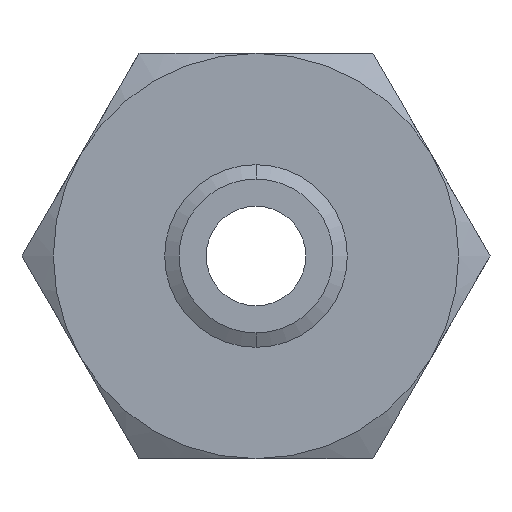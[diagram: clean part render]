
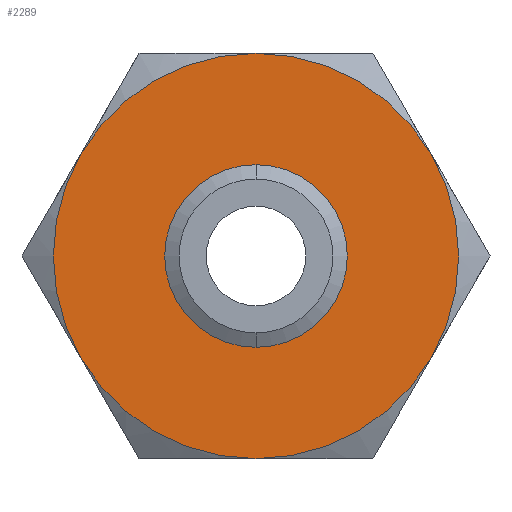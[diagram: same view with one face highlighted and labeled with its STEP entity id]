
A CAD part, front view. The second image highlights one B-rep face of the part: STEP entity #2289.
In plain terms, the highlighted planar face has unit normal (0, -1, 0).
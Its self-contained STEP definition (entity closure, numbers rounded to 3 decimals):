
#75 = VERTEX_POINT ( 'NONE', #421 ) ;
#80 = VERTEX_POINT ( 'NONE', #412 ) ;
#412 = CARTESIAN_POINT ( 'NONE',  ( 0., 0., -29.426 ) ) ;
#421 = CARTESIAN_POINT ( 'NONE',  ( 0., 0., 29.426 ) ) ;
#1132 = CARTESIAN_POINT ( 'NONE',  ( -67.117, 0., 38.75 ) ) ;
#1195 = DIRECTION ( 'NONE',  ( 0., 0., 1. ) ) ;
#1196 = DIRECTION ( 'NONE',  ( 0., 1., 0. ) ) ;
#1197 = CARTESIAN_POINT ( 'NONE',  ( 0., 0., 0. ) ) ;
#1198 = AXIS2_PLACEMENT_3D ( 'NONE', #1197, #1196, #1195 ) ;
#1199 = CIRCLE ( 'NONE', #1198, 77.5 ) ;
#1218 = CARTESIAN_POINT ( 'NONE',  ( 67.117, 0., 38.75 ) ) ;
#1222 = DIRECTION ( 'NONE',  ( 0., 0., 1. ) ) ;
#1223 = DIRECTION ( 'NONE',  ( 0., 1., 0. ) ) ;
#1224 = CARTESIAN_POINT ( 'NONE',  ( 0., 0., 0. ) ) ;
#1225 = AXIS2_PLACEMENT_3D ( 'NONE', #1224, #1223, #1222 ) ;
#1226 = CIRCLE ( 'NONE', #1225, 77.5 ) ;
#1258 = CIRCLE ( 'NONE', #1322, 29.426 ) ;
#1297 = CARTESIAN_POINT ( 'NONE',  ( 0., 0., -77.5 ) ) ;
#1298 = DIRECTION ( 'NONE',  ( 0., 0., 1. ) ) ;
#1299 = DIRECTION ( 'NONE',  ( 0., 1., 0. ) ) ;
#1300 = CARTESIAN_POINT ( 'NONE',  ( 0., 0., 0. ) ) ;
#1301 = AXIS2_PLACEMENT_3D ( 'NONE', #1300, #1299, #1298 ) ;
#1302 = CIRCLE ( 'NONE', #1301, 77.5 ) ;
#1303 = CARTESIAN_POINT ( 'NONE',  ( 67.117, 0., -38.75 ) ) ;
#1314 = DIRECTION ( 'NONE',  ( 0., 0., -1. ) ) ;
#1315 = DIRECTION ( 'NONE',  ( 0., -1., 0. ) ) ;
#1316 = CARTESIAN_POINT ( 'NONE',  ( 0., 0., 0. ) ) ;
#1317 = AXIS2_PLACEMENT_3D ( 'NONE', #1316, #1315, #1314 ) ;
#1318 = CIRCLE ( 'NONE', #1317, 29.426 ) ;
#1319 = DIRECTION ( 'NONE',  ( 0., 0., -1. ) ) ;
#1320 = DIRECTION ( 'NONE',  ( 0., -1., 0. ) ) ;
#1321 = CARTESIAN_POINT ( 'NONE',  ( 0., 0., 0. ) ) ;
#1322 = AXIS2_PLACEMENT_3D ( 'NONE', #1321, #1320, #1319 ) ;
#1326 = CARTESIAN_POINT ( 'NONE',  ( 0., 0., 0. ) ) ;
#1379 = DIRECTION ( 'NONE',  ( 0., 0., 1. ) ) ;
#1380 = DIRECTION ( 'NONE',  ( 0., 1., 0. ) ) ;
#1381 = AXIS2_PLACEMENT_3D ( 'NONE', #1326, #1380, #1379 ) ;
#1382 = CIRCLE ( 'NONE', #1381, 77.5 ) ;
#1538 = CARTESIAN_POINT ( 'NONE',  ( -67.117, 0., -38.75 ) ) ;
#1543 = DIRECTION ( 'NONE',  ( 0., 0., 1. ) ) ;
#1544 = DIRECTION ( 'NONE',  ( 0., 1., 0. ) ) ;
#1545 = CARTESIAN_POINT ( 'NONE',  ( 44.745, 0., -77.5 ) ) ;
#1546 = AXIS2_PLACEMENT_3D ( 'NONE', #1545, #1544, #1543 ) ;
#1547 = PLANE ( 'NONE',  #1546 ) ;
#1548 = FACE_BOUND ( 'NONE', #2115, .T. ) ;
#1549 = FACE_OUTER_BOUND ( 'NONE', #2265, .T. ) ;
#1560 = CARTESIAN_POINT ( 'NONE',  ( 0., 0., 77.5 ) ) ;
#1561 = DIRECTION ( 'NONE',  ( 0., 0., 1. ) ) ;
#1562 = DIRECTION ( 'NONE',  ( 0., 1., 0. ) ) ;
#1563 = CARTESIAN_POINT ( 'NONE',  ( 0., 0., 0. ) ) ;
#1564 = AXIS2_PLACEMENT_3D ( 'NONE', #1563, #1562, #1561 ) ;
#1565 = CIRCLE ( 'NONE', #1564, 77.5 ) ;
#1584 = DIRECTION ( 'NONE',  ( 0., 0., 1. ) ) ;
#1585 = DIRECTION ( 'NONE',  ( 0., 1., 0. ) ) ;
#1586 = CARTESIAN_POINT ( 'NONE',  ( 0., 0., 0. ) ) ;
#1587 = AXIS2_PLACEMENT_3D ( 'NONE', #1586, #1585, #1584 ) ;
#1588 = CIRCLE ( 'NONE', #1587, 77.5 ) ;
#2053 = VERTEX_POINT ( 'NONE', #1132 ) ;
#2069 = EDGE_CURVE ( 'NONE', #2053, #2285, #1226, .T. ) ;
#2072 = VERTEX_POINT ( 'NONE', #1218 ) ;
#2073 = ORIENTED_EDGE ( 'NONE', *, *, #2069, .F. ) ;
#2074 = ORIENTED_EDGE ( 'NONE', *, *, #2113, .F. ) ;
#2083 = ORIENTED_EDGE ( 'NONE', *, *, #2085, .F. ) ;
#2084 = ORIENTED_EDGE ( 'NONE', *, *, #2120, .F. ) ;
#2085 = EDGE_CURVE ( 'NONE', #2072, #2124, #1199, .T. ) ;
#2113 = EDGE_CURVE ( 'NONE', #75, #80, #1258, .T. ) ;
#2115 = EDGE_LOOP ( 'NONE', ( #2084, #2074 ) ) ;
#2120 = EDGE_CURVE ( 'NONE', #80, #75, #1318, .T. ) ;
#2124 = VERTEX_POINT ( 'NONE', #1303 ) ;
#2126 = EDGE_CURVE ( 'NONE', #2124, #2130, #1302, .T. ) ;
#2129 = ORIENTED_EDGE ( 'NONE', *, *, #2126, .F. ) ;
#2130 = VERTEX_POINT ( 'NONE', #1297 ) ;
#2143 = EDGE_CURVE ( 'NONE', #2263, #2053, #1382, .T. ) ;
#2144 = ORIENTED_EDGE ( 'NONE', *, *, #2143, .F. ) ;
#2263 = VERTEX_POINT ( 'NONE', #1538 ) ;
#2265 = EDGE_LOOP ( 'NONE', ( #2266, #2073, #2144, #2303, #2129, #2083 ) ) ;
#2266 = ORIENTED_EDGE ( 'NONE', *, *, #2282, .F. ) ;
#2282 = EDGE_CURVE ( 'NONE', #2285, #2072, #1565, .T. ) ;
#2285 = VERTEX_POINT ( 'NONE', #1560 ) ;
#2289 = ADVANCED_FACE ( 'NONE', ( #1549, #1548 ), #1547, .F. ) ;
#2303 = ORIENTED_EDGE ( 'NONE', *, *, #2304, .F. ) ;
#2304 = EDGE_CURVE ( 'NONE', #2130, #2263, #1588, .T. ) ;
